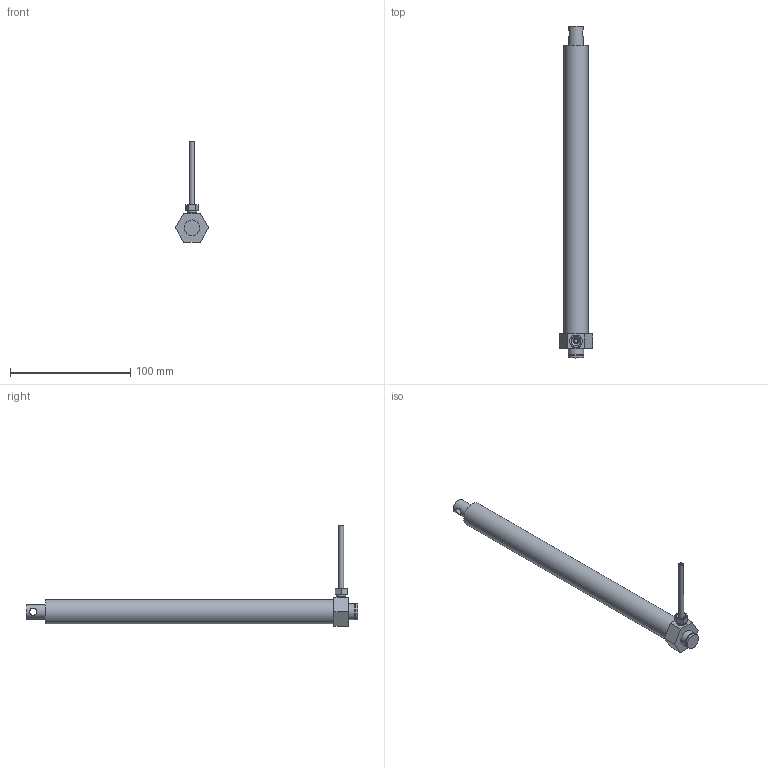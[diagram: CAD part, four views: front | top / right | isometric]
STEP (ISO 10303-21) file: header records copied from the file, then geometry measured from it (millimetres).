
FILE_DESCRIPTION(/* description */ ('Unknown'),/* implementation_level */ '2;1');
FILE_NAME(/* name */ '109.50022 Zylinder CB 1820 eingefahren',/* time_stamp */ '2018-04-19T16:47:21+02:00',/* author */ ('Unknown'),/* organization */ ('Unknown'),/* preprocessor_version */ 'ST-DEVELOPER v16.7',/* originating_system */ 'DEX',/* authorisation */ $);
FILE_SCHEMA (('AUTOMOTIVE_DESIGN {1 0 10303 214 3 1 1}'));
Length unit declared in the file: millimetre
Products named in the file (9): 109.50022; 121.50002; 142.00021; 125.00021; 115.00008_oa_0; 125.00063; 120.00002; 122.00012; 113.00002_70mm
Assembly tree (8 placements, depth 2):
  109.50022
    121.50002
    142.00021
    125.00021
    115.00008_oa_0
    125.00063
    120.00002
    122.00012
    113.00002_70mm
Bounding box: 27.71 x 276 x 83.5 mm (x, y, z)
Volume: 52000.7 mm3; surface area: 44848.7 mm2
Topology: 7 solids, 7 shells, 93 faces, 192 edges, 122 vertices
Faces by surface type: plane 37, cylinder 28, cone 23, torus 4, sphere 1
Full cylindrical faces by diameter (mm): 2.2 x1, 3 x1, 3.5 x1, 4 x1, 4.1 x1, 4.2 x1, 6 x1, 6.917 x2, 7.763 x2, 8 x3, 8.1 x3, 12 x2, 12.5 x1, 13 x2, 14.4 x1, 17.9 x2, 18 x2, 20 x1
Entity records: 2782 total; most frequent: CARTESIAN_POINT 435, DIRECTION 392, ORIENTED_EDGE 258, AXIS2_PLACEMENT_3D 177, FACE_BOUND 166, EDGE_LOOP 164, EDGE_CURVE 129, VERTEX_POINT 111
